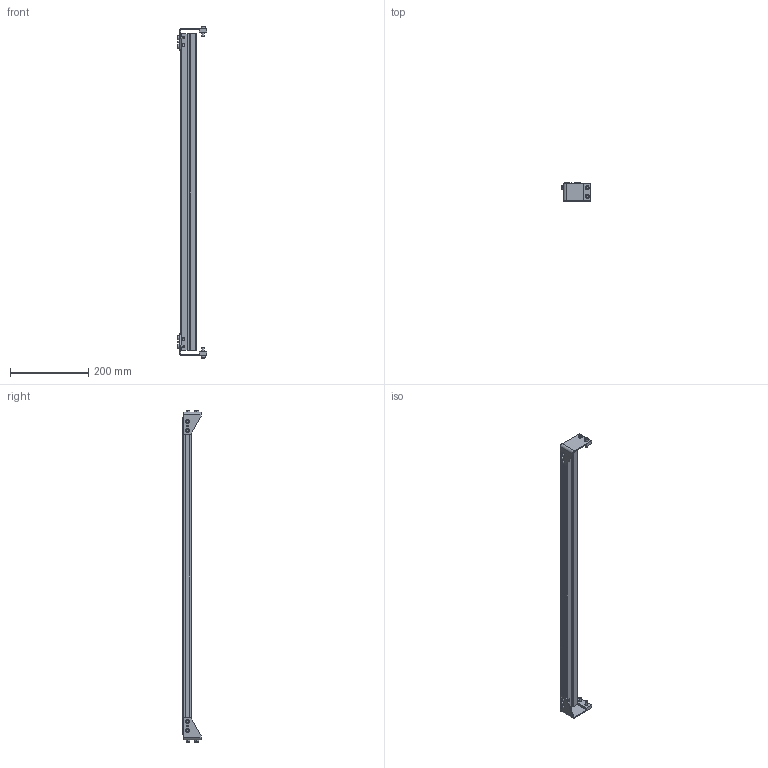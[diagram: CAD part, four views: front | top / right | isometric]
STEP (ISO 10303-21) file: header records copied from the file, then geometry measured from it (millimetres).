
FILE_DESCRIPTION((''),'2;1');
FILE_NAME('3076WWM_2_ASM','2023-03-15T',('jenni.wallner'),(''),'PRO/ENGINEER BY PARAMETRIC TECHNOLOGY CORPORATION, 2012420','PRO/ENGINEER BY PARAMETRIC TECHNOLOGY CORPORATION, 2012420','');
FILE_SCHEMA(('CONFIG_CONTROL_DESIGN'));
Length unit declared in the file: inch
Products named in the file (4): 677721_1; BRACKET_L; BRACKET_R; 3076WWM_2_ASM
Assembly tree (3 placements, depth 2):
  3076WWM_2_ASM
    677721_1
    BRACKET_L
    BRACKET_R
Bounding box: 76.2 x 46.13 x 849.62 mm (x, y, z)
Volume: 374098.1 mm3; surface area: 225262 mm2
Topology: 3 solids, 3 shells, 296 faces, 730 edges, 476 vertices
Faces by surface type: plane 188, cylinder 76, cone 32
Entity records: 8834 total; most frequent: DIRECTION 1520, CARTESIAN_POINT 1509, ORIENTED_EDGE 1460, EDGE_CURVE 730, VECTOR 546, LINE 546, AXIS2_PLACEMENT_3D 487, VERTEX_POINT 476
